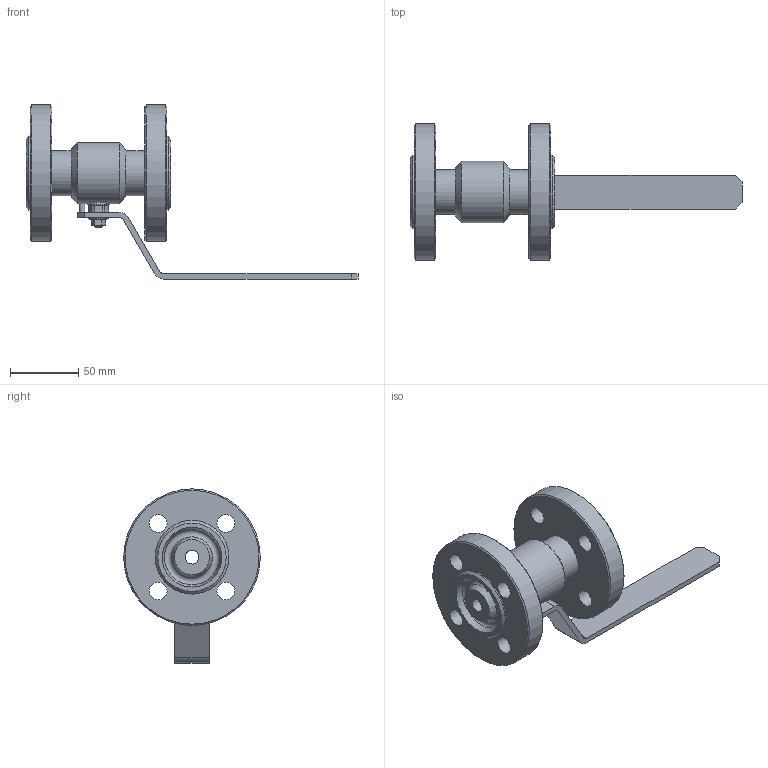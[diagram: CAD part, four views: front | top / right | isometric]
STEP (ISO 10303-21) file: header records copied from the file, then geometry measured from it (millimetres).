
FILE_DESCRIPTION(('STEP AP203'), '1');
FILE_NAME('ZARDP 010.063.27.P.stp', '2013-12-05T08:32:27', ('1'), ('1'), 'ASCON STEP Converter 1.3', 'Kompas 3D', '');
FILE_SCHEMA(('CONFIG_CONTROL_DESIGN','SUPPORT_RESOURCE_SCHEMA'));
Length unit declared in the file: millimetre
Products named in the file (1): 35
Bounding box: 243 x 100 x 127.5 mm (x, y, z)
Volume: 330160.7 mm3; surface area: 73927 mm2
Topology: 1 solids, 3 shells, 167 faces, 384 edges, 236 vertices
Faces by surface type: plane 88, cylinder 44, cone 32, torus 2, bspline 1
Full cylindrical faces by diameter (mm): 4 x2, 6 x2, 8.673 x1, 9 x1, 10 x3, 10.1 x1, 13 x8, 14.2 x1, 15.8 x1, 16 x3, 25.4 x1, 33 x2, 45 x1, 54 x2, 100 x2
Entity records: 5846 total; most frequent: CARTESIAN_POINT 1854, DIRECTION 853, ORIENTED_EDGE 766, EDGE_CURVE 383, AXIS2_PLACEMENT_3D 328, VERTEX_POINT 236, EDGE_LOOP 211, LINE 197
